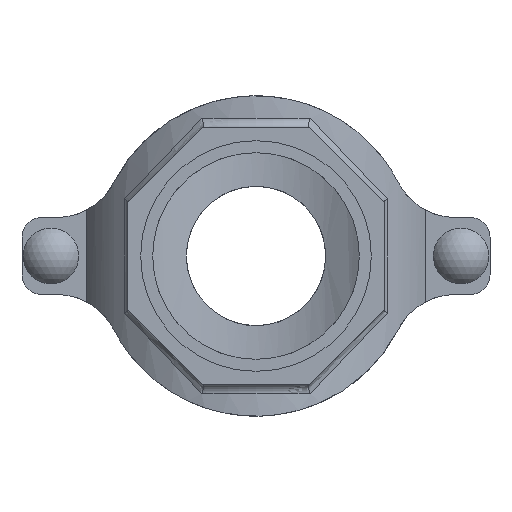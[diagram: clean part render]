
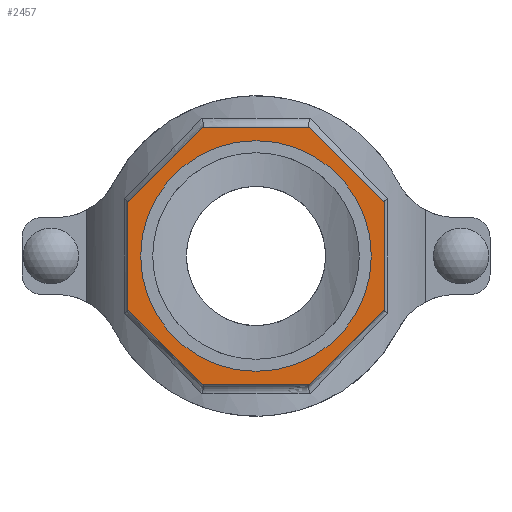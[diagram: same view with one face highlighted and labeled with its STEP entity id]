
A CAD part, front view. The second image highlights one B-rep face of the part: STEP entity #2457.
In plain terms, the highlighted planar face has unit normal (0, -1, 0) as drawn and (0, 1, 0) by its records, which use the part's own axes.
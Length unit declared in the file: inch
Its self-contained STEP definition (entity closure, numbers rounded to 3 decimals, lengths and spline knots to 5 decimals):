
#178=FACE_BOUND('',#441,.T.);
#293=FACE_OUTER_BOUND('',#440,.T.);
#440=EDGE_LOOP('',(#2058,#2059,#2060,#2061,#2062,#2063,#2064,#2065));
#441=EDGE_LOOP('',(#2066));
#576=LINE('',#4539,#758);
#579=LINE('',#4544,#761);
#581=LINE('',#4548,#763);
#583=LINE('',#4552,#765);
#617=LINE('',#4959,#799);
#619=LINE('',#4963,#801);
#621=LINE('',#4967,#803);
#623=LINE('',#4970,#805);
#758=VECTOR('',#3180,0.3937);
#761=VECTOR('',#3185,0.3937);
#763=VECTOR('',#3189,0.3937);
#765=VECTOR('',#3193,0.3937);
#799=VECTOR('',#3307,0.3937);
#801=VECTOR('',#3311,0.3937);
#803=VECTOR('',#3315,0.3937);
#805=VECTOR('',#3319,0.3937);
#887=CIRCLE('',#2710,2.25);
#1065=VERTEX_POINT('',#4536);
#1066=VERTEX_POINT('',#4538);
#1067=VERTEX_POINT('',#4542);
#1068=VERTEX_POINT('',#4546);
#1069=VERTEX_POINT('',#4550);
#1096=VERTEX_POINT('',#4784);
#1120=VERTEX_POINT('',#4958);
#1121=VERTEX_POINT('',#4962);
#1122=VERTEX_POINT('',#4966);
#1366=EDGE_CURVE('',#1066,#1065,#576,.T.);
#1369=EDGE_CURVE('',#1065,#1067,#579,.T.);
#1371=EDGE_CURVE('',#1067,#1068,#581,.T.);
#1373=EDGE_CURVE('',#1068,#1069,#583,.T.);
#1409=EDGE_CURVE('',#1096,#1096,#887,.T.);
#1441=EDGE_CURVE('',#1120,#1066,#617,.T.);
#1443=EDGE_CURVE('',#1121,#1120,#619,.T.);
#1445=EDGE_CURVE('',#1122,#1121,#621,.T.);
#1447=EDGE_CURVE('',#1069,#1122,#623,.T.);
#2058=ORIENTED_EDGE('',*,*,#1447,.T.);
#2059=ORIENTED_EDGE('',*,*,#1445,.T.);
#2060=ORIENTED_EDGE('',*,*,#1443,.T.);
#2061=ORIENTED_EDGE('',*,*,#1441,.T.);
#2062=ORIENTED_EDGE('',*,*,#1366,.T.);
#2063=ORIENTED_EDGE('',*,*,#1369,.T.);
#2064=ORIENTED_EDGE('',*,*,#1371,.T.);
#2065=ORIENTED_EDGE('',*,*,#1373,.T.);
#2066=ORIENTED_EDGE('',*,*,#1409,.T.);
#2206=PLANE('',#2733);
#2457=ADVANCED_FACE('',(#293,#178),#2206,.T.);
#2710=AXIS2_PLACEMENT_3D('',#4785,#3253,#3254);
#2733=AXIS2_PLACEMENT_3D('',#4971,#3320,#3321);
#3180=DIRECTION('',(0.,0.,1.));
#3185=DIRECTION('',(0.707,0.,0.707));
#3189=DIRECTION('',(1.,0.,0.));
#3193=DIRECTION('',(0.707,0.,-0.707));
#3253=DIRECTION('center_axis',(0.,-1.,0.));
#3254=DIRECTION('ref_axis',(-1.,0.,0.));
#3307=DIRECTION('',(-0.707,0.,0.707));
#3311=DIRECTION('',(-1.,0.,0.));
#3315=DIRECTION('',(-0.707,0.,-0.707));
#3319=DIRECTION('',(0.,0.,-1.));
#3320=DIRECTION('center_axis',(0.,1.,0.));
#3321=DIRECTION('ref_axis',(0.,0.,1.));
#4536=CARTESIAN_POINT('',(-2.5,5.75,1.03553));
#4538=CARTESIAN_POINT('',(-2.5,5.75,-1.03553));
#4539=CARTESIAN_POINT('',(-2.5,5.75,1.03553));
#4542=CARTESIAN_POINT('',(-1.03553,5.75,2.5));
#4544=CARTESIAN_POINT('',(-1.03553,5.75,2.5));
#4546=CARTESIAN_POINT('',(1.03553,5.75,2.5));
#4548=CARTESIAN_POINT('',(1.03553,5.75,2.5));
#4550=CARTESIAN_POINT('',(2.5,5.75,1.03553));
#4552=CARTESIAN_POINT('',(2.5,5.75,1.03553));
#4784=CARTESIAN_POINT('',(2.25,5.75,0.));
#4785=CARTESIAN_POINT('Origin',(0.,5.75,0.));
#4958=CARTESIAN_POINT('',(-1.03553,5.75,-2.5));
#4959=CARTESIAN_POINT('',(-2.5,5.75,-1.03553));
#4962=CARTESIAN_POINT('',(1.03553,5.75,-2.5));
#4963=CARTESIAN_POINT('',(-1.03553,5.75,-2.5));
#4966=CARTESIAN_POINT('',(2.5,5.75,-1.03553));
#4967=CARTESIAN_POINT('',(1.03553,5.75,-2.5));
#4970=CARTESIAN_POINT('',(2.5,5.75,-1.03553));
#4971=CARTESIAN_POINT('Origin',(0.,5.75,0.));
